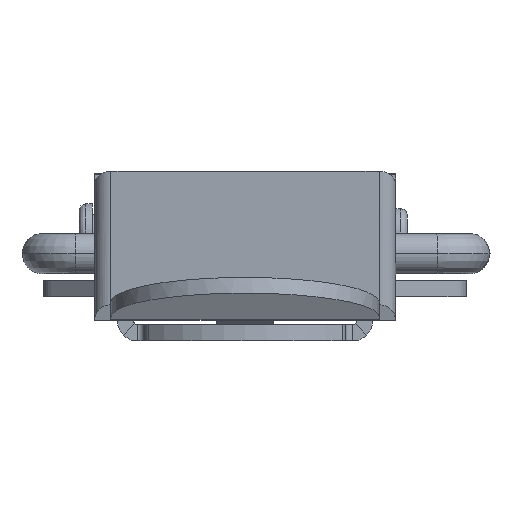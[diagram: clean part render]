
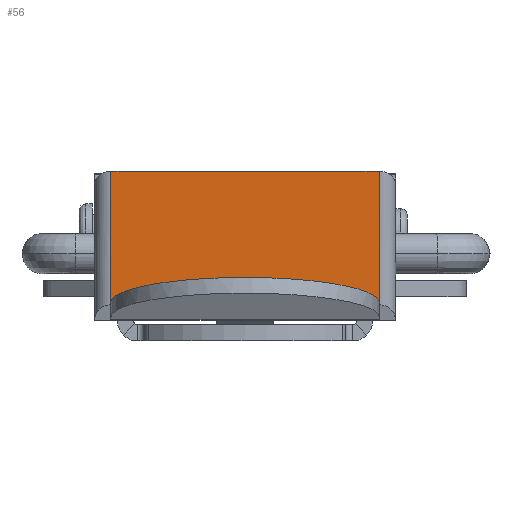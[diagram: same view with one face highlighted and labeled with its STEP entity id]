
A CAD part, left-side view. The second image highlights one B-rep face of the part: STEP entity #56.
In plain terms, the highlighted planar face has unit normal (-0.267, 0, 0.964).
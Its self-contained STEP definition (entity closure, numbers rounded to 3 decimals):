
#56=ADVANCED_FACE('',(#248),#2775,.T.);
#248=FACE_OUTER_BOUND('',#423,.T.);
#423=EDGE_LOOP('',(#722,#723,#724,#725,#726,#727,#728,#729,#730,#731,#732,
#733,#734,#735));
#722=ORIENTED_EDGE('',*,*,#1474,.T.);
#723=ORIENTED_EDGE('',*,*,#1475,.T.);
#724=ORIENTED_EDGE('',*,*,#1476,.T.);
#725=ORIENTED_EDGE('',*,*,#1477,.T.);
#726=ORIENTED_EDGE('',*,*,#1478,.T.);
#727=ORIENTED_EDGE('',*,*,#1479,.T.);
#728=ORIENTED_EDGE('',*,*,#1480,.T.);
#729=ORIENTED_EDGE('',*,*,#1481,.T.);
#730=ORIENTED_EDGE('',*,*,#1482,.T.);
#731=ORIENTED_EDGE('',*,*,#1483,.T.);
#732=ORIENTED_EDGE('',*,*,#1484,.T.);
#733=ORIENTED_EDGE('',*,*,#1485,.T.);
#734=ORIENTED_EDGE('',*,*,#1486,.T.);
#735=ORIENTED_EDGE('',*,*,#1487,.T.);
#1474=EDGE_CURVE('',#2468,#2469,#2244,.T.);
#1475=EDGE_CURVE('',#2469,#2470,#2245,.T.);
#1476=EDGE_CURVE('',#2470,#2471,#2246,.T.);
#1477=EDGE_CURVE('',#2471,#2472,#2247,.T.);
#1478=EDGE_CURVE('',#2472,#2473,#2248,.T.);
#1479=EDGE_CURVE('',#2473,#2474,#2249,.T.);
#1480=EDGE_CURVE('',#2474,#2475,#2250,.T.);
#1481=EDGE_CURVE('',#2475,#2476,#2251,.T.);
#1482=EDGE_CURVE('',#2476,#2477,#2252,.T.);
#1483=EDGE_CURVE('',#2477,#2478,#2253,.T.);
#1484=EDGE_CURVE('',#2478,#2479,#2254,.T.);
#1485=EDGE_CURVE('',#2479,#2480,#2255,.T.);
#1486=EDGE_CURVE('',#2480,#2481,#2256,.T.);
#1487=EDGE_CURVE('',#2481,#2468,#2257,.T.);
#2244=B_SPLINE_CURVE_WITH_KNOTS('',1,(#4443,#4444),.UNSPECIFIED.,.F.,.F.,
(2,2),(0.,0.033),.UNSPECIFIED.);
#2245=B_SPLINE_CURVE_WITH_KNOTS('',1,(#4445,#4446,#4447),.UNSPECIFIED.,
 .F.,.F.,(2,1,2),(0.,1.,2.),.UNSPECIFIED.);
#2246=B_SPLINE_CURVE_WITH_KNOTS('',1,(#4448,#4449),.UNSPECIFIED.,.F.,.F.,
(2,2),(0.,0.002),.UNSPECIFIED.);
#2247=B_SPLINE_CURVE_WITH_KNOTS('',1,(#4450,#4451),.UNSPECIFIED.,.F.,.F.,
(2,2),(0.,0.01),.UNSPECIFIED.);
#2248=B_SPLINE_CURVE_WITH_KNOTS('',1,(#4452,#4453),.UNSPECIFIED.,.F.,.F.,
(2,2),(0.,37.287),.UNSPECIFIED.);
#2249=B_SPLINE_CURVE_WITH_KNOTS('',1,(#4454,#4455),.UNSPECIFIED.,.F.,.F.,
(2,2),(0.,0.01),.UNSPECIFIED.);
#2250=B_SPLINE_CURVE_WITH_KNOTS('',1,(#4456,#4457),.UNSPECIFIED.,.F.,.F.,
(2,2),(0.,20.),.UNSPECIFIED.);
#2251=B_SPLINE_CURVE_WITH_KNOTS('',1,(#4458,#4459),.UNSPECIFIED.,.F.,.F.,
(2,2),(0.,0.01),.UNSPECIFIED.);
#2252=B_SPLINE_CURVE_WITH_KNOTS('',1,(#4460,#4461),.UNSPECIFIED.,.F.,.F.,
(2,2),(0.,37.287),.UNSPECIFIED.);
#2253=B_SPLINE_CURVE_WITH_KNOTS('',1,(#4462,#4463),.UNSPECIFIED.,.F.,.F.,
(2,2),(0.,0.01),.UNSPECIFIED.);
#2254=B_SPLINE_CURVE_WITH_KNOTS('',1,(#4464,#4465),.UNSPECIFIED.,.F.,.F.,
(2,2),(0.,0.002),.UNSPECIFIED.);
#2255=B_SPLINE_CURVE_WITH_KNOTS('',1,(#4466,#4467,#4468),.UNSPECIFIED.,
 .F.,.F.,(2,1,2),(0.,1.,2.),.UNSPECIFIED.);
#2256=B_SPLINE_CURVE_WITH_KNOTS('',1,(#4469,#4470),.UNSPECIFIED.,.F.,.F.,
(2,2),(0.,0.033),.UNSPECIFIED.);
#2257=B_SPLINE_CURVE_WITH_KNOTS('',1,(#4471,#4472),.UNSPECIFIED.,.F.,.F.,
(2,2),(0.,16.),.UNSPECIFIED.);
#2468=VERTEX_POINT('',#4303);
#2469=VERTEX_POINT('',#4304);
#2470=VERTEX_POINT('',#4305);
#2471=VERTEX_POINT('',#4306);
#2472=VERTEX_POINT('',#4307);
#2473=VERTEX_POINT('',#4308);
#2474=VERTEX_POINT('',#4309);
#2475=VERTEX_POINT('',#4310);
#2476=VERTEX_POINT('',#4311);
#2477=VERTEX_POINT('',#4312);
#2478=VERTEX_POINT('',#4313);
#2479=VERTEX_POINT('',#4314);
#2480=VERTEX_POINT('',#4315);
#2481=VERTEX_POINT('',#4316);
#2775=PLANE('',#2962);
#2962=AXIS2_PLACEMENT_3D('',#3930,#3284,$);
#3284=DIRECTION('',(-0.267,0.,0.964));
#3930=CARTESIAN_POINT('',(-36.937,-0.824,3.431));
#4303=CARTESIAN_POINT('',(2.567,19.2,14.387));
#4304=CARTESIAN_POINT('',(2.599,19.2,14.395));
#4305=CARTESIAN_POINT('',(2.599,21.2,14.395));
#4306=CARTESIAN_POINT('',(2.601,21.2,14.396));
#4307=CARTESIAN_POINT('',(2.601,21.21,14.396));
#4308=CARTESIAN_POINT('',(-33.33,21.21,4.431));
#4309=CARTESIAN_POINT('',(-33.33,21.2,4.431));
#4310=CARTESIAN_POINT('',(-33.33,1.2,4.431));
#4311=CARTESIAN_POINT('',(-33.33,1.19,4.431));
#4312=CARTESIAN_POINT('',(2.601,1.19,14.396));
#4313=CARTESIAN_POINT('',(2.601,1.2,14.396));
#4314=CARTESIAN_POINT('',(2.599,1.2,14.395));
#4315=CARTESIAN_POINT('',(2.599,3.2,14.395));
#4316=CARTESIAN_POINT('',(2.567,3.2,14.387));
#4443=CARTESIAN_POINT('',(2.567,19.2,14.387));
#4444=CARTESIAN_POINT('',(2.599,19.2,14.395));
#4445=CARTESIAN_POINT('',(2.599,19.2,14.395));
#4446=CARTESIAN_POINT('',(2.599,20.2,14.395));
#4447=CARTESIAN_POINT('',(2.599,21.2,14.395));
#4448=CARTESIAN_POINT('',(2.599,21.2,14.395));
#4449=CARTESIAN_POINT('',(2.601,21.2,14.396));
#4450=CARTESIAN_POINT('',(2.601,21.2,14.396));
#4451=CARTESIAN_POINT('',(2.601,21.21,14.396));
#4452=CARTESIAN_POINT('',(2.601,21.21,14.396));
#4453=CARTESIAN_POINT('',(-33.33,21.21,4.431));
#4454=CARTESIAN_POINT('',(-33.33,21.21,4.431));
#4455=CARTESIAN_POINT('',(-33.33,21.2,4.431));
#4456=CARTESIAN_POINT('',(-33.33,21.2,4.431));
#4457=CARTESIAN_POINT('',(-33.33,1.2,4.431));
#4458=CARTESIAN_POINT('',(-33.33,1.2,4.431));
#4459=CARTESIAN_POINT('',(-33.33,1.19,4.431));
#4460=CARTESIAN_POINT('',(-33.33,1.19,4.431));
#4461=CARTESIAN_POINT('',(2.601,1.19,14.396));
#4462=CARTESIAN_POINT('',(2.601,1.19,14.396));
#4463=CARTESIAN_POINT('',(2.601,1.2,14.396));
#4464=CARTESIAN_POINT('',(2.601,1.2,14.396));
#4465=CARTESIAN_POINT('',(2.599,1.2,14.395));
#4466=CARTESIAN_POINT('',(2.599,1.2,14.395));
#4467=CARTESIAN_POINT('',(2.599,2.2,14.395));
#4468=CARTESIAN_POINT('',(2.599,3.2,14.395));
#4469=CARTESIAN_POINT('',(2.599,3.2,14.395));
#4470=CARTESIAN_POINT('',(2.567,3.2,14.387));
#4471=CARTESIAN_POINT('',(2.567,3.2,14.387));
#4472=CARTESIAN_POINT('',(2.567,19.2,14.387));
